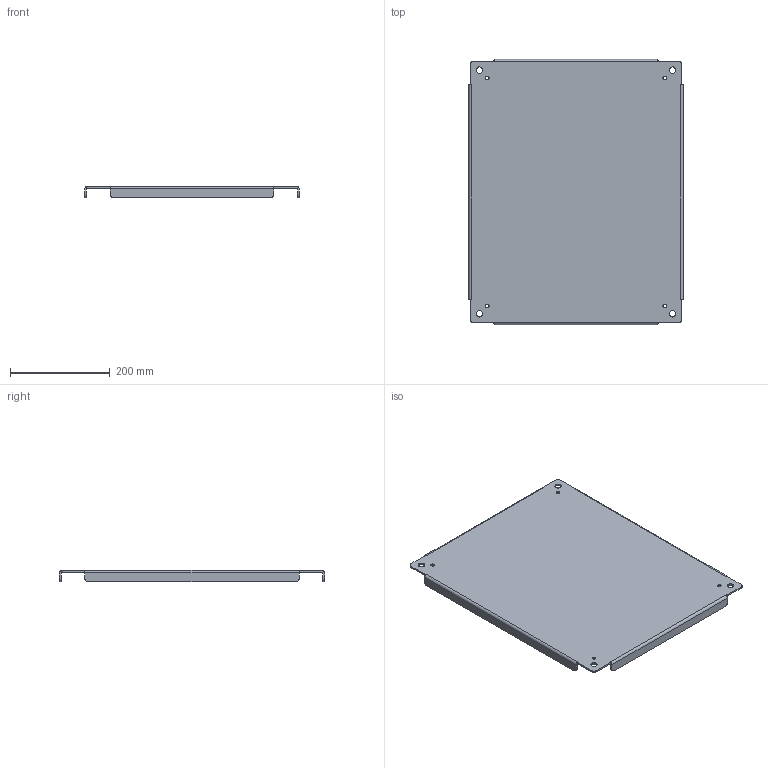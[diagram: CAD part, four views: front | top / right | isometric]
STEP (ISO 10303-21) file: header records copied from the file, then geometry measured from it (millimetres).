
FILE_DESCRIPTION((''),'2;1');
FILE_NAME('MODEL-092_ASM','2013-02-26T',('richards'),('SAGINAW CONTROL & ENGINEERING'),'PRO/ENGINEER BY PARAMETRIC TECHNOLOGY CORPORATION, 2012070','PRO/ENGINEER BY PARAMETRIC TECHNOLOGY CORPORATION, 2012070','');
FILE_SCHEMA(('AUTOMOTIVE_DESIGN { 1 0 10303 214 1 1 1 1 }'));
Length unit declared in the file: inch
Products named in the file (2): MODEL-092-SUBPNL; MODEL-092_ASM
Assembly tree (1 placements, depth 2):
  MODEL-092_ASM
    MODEL-092-SUBPNL
Bounding box: 430.21 x 531.81 x 22.23 mm (x, y, z)
Volume: 805228.3 mm3; surface area: 514477.5 mm2
Topology: 1 solids, 1 shells, 98 faces, 256 edges, 160 vertices
Faces by surface type: plane 38, cylinder 36, bspline 24
Entity records: 4440 total; most frequent: CARTESIAN_POINT 1153, ORIENTED_EDGE 512, DIRECTION 482, PRESENTATION_STYLE_ASSIGNMENT 257, STYLED_ITEM 257, CURVE_STYLE 256, EDGE_CURVE 256, AXIS2_PLACEMENT_3D 165
